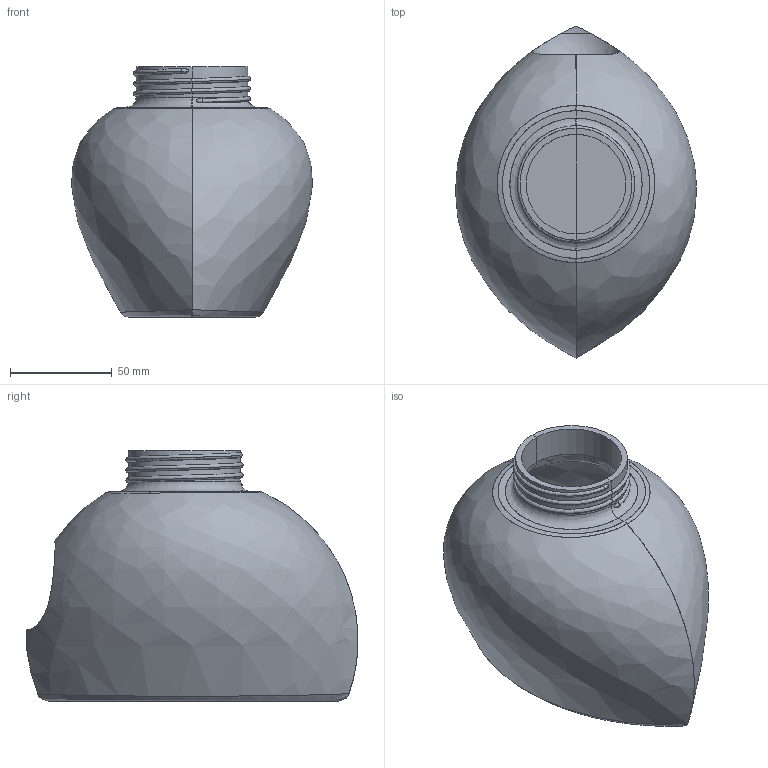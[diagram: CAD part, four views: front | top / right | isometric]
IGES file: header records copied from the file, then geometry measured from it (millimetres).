
Start section: START RECORD GO HERE.
Global section: file name: c1-Berta_Oriol_Jaume-solucion-posible.igs; native system: IBM CATIA IGES - CATIA Version 5 Release 19 ; preprocessor: CATIA Version 5 Release 19 ; author: andres.garcia; organization: IQS; date: 20200131.143909; units: millimetre
Bounding box: 118.44 x 163.06 x 123 mm (x, y, z)
Surface area: 109044.9 mm2 (no closed solid volume)
Topology: 0 solids, 0 shells, 54 faces, 252 edges, 248 vertices
Faces by surface type: bspline 32, revolution 16, plane 6
